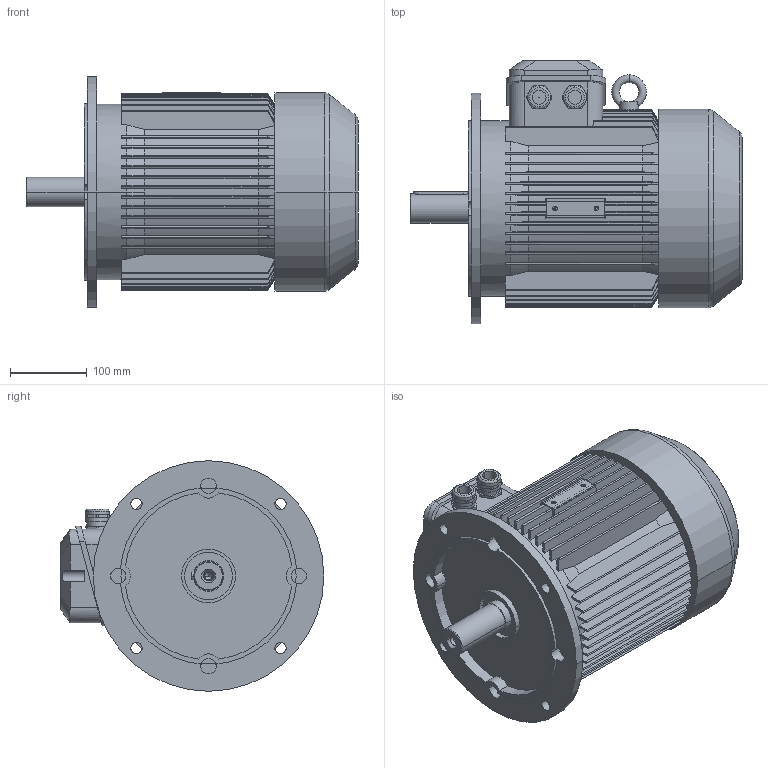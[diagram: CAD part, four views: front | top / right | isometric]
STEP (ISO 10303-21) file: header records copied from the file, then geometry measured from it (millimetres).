
FILE_DESCRIPTION (( 'STEP AP214' ), '1' );
FILE_NAME ('MAP132S4A IM3041 A300 FF265.STEP', '2020-12-23T14:47:32', ( '' ), ( '' ), 'SwSTEP 2.0', 'SolidWorks 2018', '' );
FILE_SCHEMA (( 'AUTOMOTIVE_DESIGN' ));
Length unit declared in the file: millimetre
Products named in the file (1): MAP132S4A IM3041 A300 FF265
Bounding box: 432 x 343 x 300 mm (x, y, z)
Volume: 15577142.5 mm3; surface area: 1122489.2 mm2
Topology: 1 solids, 6 shells, 886 faces, 2418 edges, 1587 vertices
Faces by surface type: plane 450, cylinder 235, cone 157, bspline 32, torus 12
Entity records: 33145 total; most frequent: CARTESIAN_POINT 11196, ORIENTED_EDGE 4832, DIRECTION 4249, EDGE_CURVE 2416, VERTEX_POINT 1587, AXIS2_PLACEMENT_3D 1464, VECTOR 1321, LINE 1321
